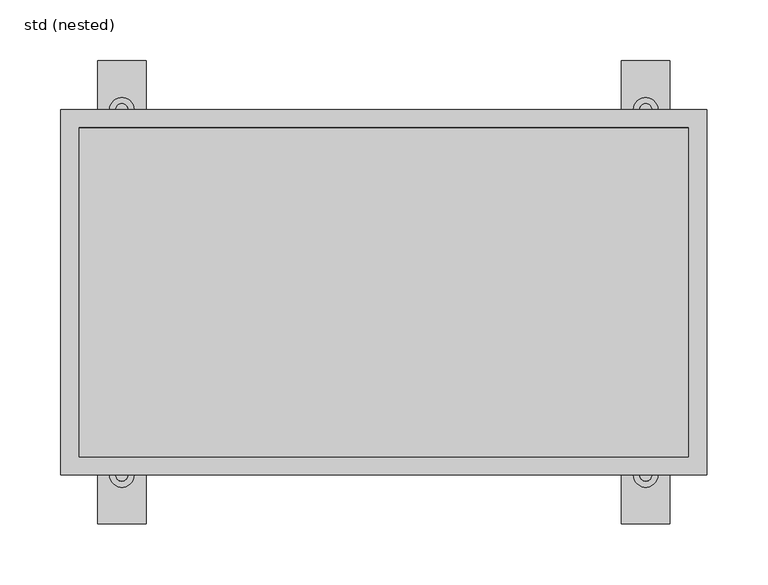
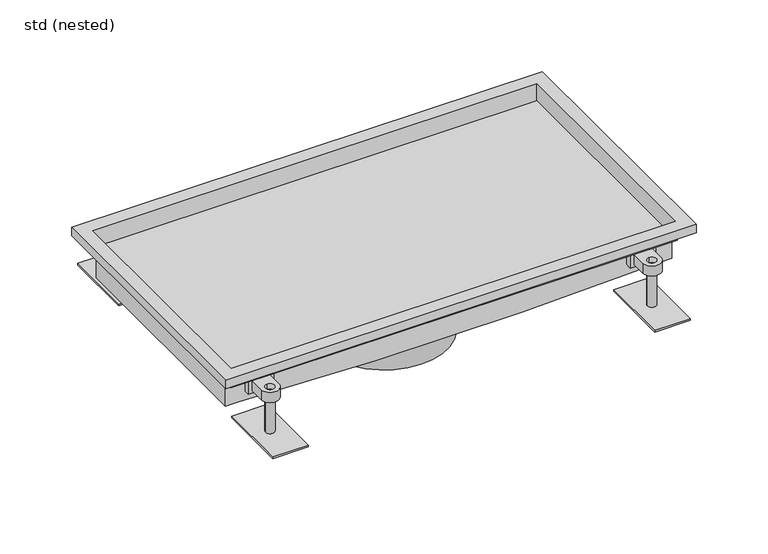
"""IFC4 building model written with IfcOpenShell, lengths in millimetres: sanitary terminal geometry, ZZZ_do not use_PF_ST_UN_custom hygienic box channel_ACO : std (nested)."""

from ifc_helpers import new_model, si_unit, point, frame, frame_2d, origin, place, context, project, spatial, polyline, circle_curve, trimmed, segment, composite_curve, outline, extrude, faceted_brep, source, transform, mapped, element, save
from ifc_brep_helpers import plane_surface, cylinder_surface, advanced_brep


def std_nested_70838659(model_context):
    return source(origin(), model_context, "Body", "SolidModel", [
        extrude(outline(composite_curve([segment(polyline([(225.0, 132.5), (205.0, 132.5), (205.0, 150.0)]), True, "CONTINUOUS"), segment(trimmed(circle_curve(frame_2d((215.0, 150.0)), 10.0), [point((205.0, 150.0))], [point((225.0, 150.0))], False, "CARTESIAN"), True, "CONTINUOUS"), segment(polyline([(225.0, 150.0), (225.0, 132.5)]), True, "CONTINUOUS")], self_intersect=False), holes=[composite_curve([segment(trimmed(circle_curve(frame_2d((215.0, 150.0)), 5.0), [point((215.0, 145.0))], [point((215.0, 155.0))], True, "CARTESIAN"), True, "CONTINUOUS"), segment(trimmed(circle_curve(frame_2d((215.0, 150.0)), 5.0), [point((215.0, 155.0))], [point((215.0, 145.0))], True, "CARTESIAN"), True, "CONTINUOUS")], self_intersect=False)]), frame((0.0, 0.0, -37.0), z_axis=(0.0, 0.0, 1.0), x_axis=(1.0, 0.0, 0.0)), (0.0, 0.0, 1.0), 12.0),
        advanced_brep(
        [(210.0, 150.0, -31.0), (220.0, 150.0, -31.0), (235.0, 110.0, -79.5), (195.0, 110.0, -79.5), (195.0, 190.0, -79.5), (235.0, 190.0, -79.5), (220.0, 150.0, -77.5), (210.0, 150.0, -77.5), (235.0, 110.0, -77.5), (235.0, 190.0, -77.5), (195.0, 190.0, -77.5), (195.0, 110.0, -77.5)],
        [
            (0, 1, circle_curve(frame((215.0, 150.0, -31.0), z_axis=(0.0, 0.0, 1.0), x_axis=(1.0, 0.0, 0.0)), 5.0)),
            (1, 0, circle_curve(frame((215.0, 150.0, -31.0), z_axis=(0.0, 0.0, 1.0), x_axis=(1.0, 0.0, 0.0)), 5.0)),
            (2, 3),
            (3, 4),
            (4, 5),
            (5, 2),
            (1, 6),
            (6, 7, circle_curve(frame((215.0, 150.0, -77.5), z_axis=(0.0, 0.0, 1.0), x_axis=(1.0, 0.0, 0.0)), 5.0)),
            (7, 0),
            (7, 6, circle_curve(frame((215.0, 150.0, -77.5), z_axis=(0.0, 0.0, 1.0), x_axis=(1.0, 0.0, 0.0)), 5.0)),
            (8, 9),
            (9, 10),
            (10, 11),
            (11, 8),
            (11, 3),
            (2, 8),
            (10, 4),
            (9, 5),
        ],
        [
            plane_surface(frame((220.0, 150.0, -31.0), z_axis=(0.0, 0.0, 1.0), x_axis=(0.0, -1.0, 0.0))),
            plane_surface(frame((220.0, 150.0, -79.5), z_axis=(0.0, 0.0, -1.0), x_axis=(0.0, 1.0, 0.0))),
            cylinder_surface(frame((215.0, 150.0, -79.5), z_axis=(0.0, 0.0, 1.0), x_axis=(1.0, 0.0, 0.0)), 5.0),
            plane_surface(frame((195.0, 110.0, -77.5), z_axis=(0.0, 0.0, 1.0), x_axis=(-1.0, 0.0, 0.0))),
            plane_surface(frame((235.0, 110.0, -77.5), z_axis=(0.0, -1.0, 0.0), x_axis=(0.0, 0.0, -1.0))),
            plane_surface(frame((195.0, 110.0, -77.5), z_axis=(-1.0, 0.0, 0.0), x_axis=(0.0, 0.0, -1.0))),
            plane_surface(frame((195.0, 190.0, -77.5), z_axis=(0.0, 1.0, 0.0), x_axis=(0.0, 0.0, -1.0))),
            plane_surface(frame((235.0, 190.0, -77.5), z_axis=(1.0, 0.0, 0.0), x_axis=(0.0, 0.0, -1.0))),
        ],
        [
            (0, [[1, 2]]),
            (1, [[3, 4, 5, 6]]),
            (2, [[7, 8, 9, -2]]),
            (2, [[-9, 10, -7, -1]]),
            (3, [[11, 12, 13, 14], [-10, -8]]),
            (4, [[15, -3, 16, -14]]),
            (5, [[17, -4, -15, -13]]),
            (6, [[18, -5, -17, -12]]),
            (7, [[-16, -6, -18, -11]]),
        ],
    ),
        extrude(outline(polyline([(229.35, 124.5), (200.65, 124.5), (200.65, 132.5), (229.35, 132.5), (229.35, 124.5)])), frame((0.0, 0.0, -40.0), z_axis=(0.0, 0.0, 1.0), x_axis=(1.0, 0.0, 0.0)), (0.0, 0.0, 1.0), 18.0),
        extrude(outline(composite_curve([segment(polyline([(225.0, -132.5), (225.0, -150.0)]), True, "CONTINUOUS"), segment(trimmed(circle_curve(frame_2d((215.0, -150.0)), 10.0), [point((225.0, -150.0))], [point((205.0, -150.0))], False, "CARTESIAN"), True, "CONTINUOUS"), segment(polyline([(205.0, -150.0), (205.0, -132.5), (225.0, -132.5)]), True, "CONTINUOUS")], self_intersect=False), holes=[composite_curve([segment(trimmed(circle_curve(frame_2d((215.0, -150.0)), 5.0), [point((215.0, -145.0))], [point((215.0, -155.0))], True, "CARTESIAN"), True, "CONTINUOUS"), segment(trimmed(circle_curve(frame_2d((215.0, -150.0)), 5.0), [point((215.0, -155.0))], [point((215.0, -145.0))], True, "CARTESIAN"), True, "CONTINUOUS")], self_intersect=False)]), frame((0.0, 0.0, -37.0), z_axis=(0.0, 0.0, 1.0), x_axis=(1.0, 0.0, 0.0)), (0.0, 0.0, 1.0), 12.0),
        advanced_brep(
        [(210.0, -150.0, -31.0), (220.0, -150.0, -31.0), (235.0, -110.0, -79.5), (235.0, -190.0, -79.5), (195.0, -190.0, -79.5), (195.0, -110.0, -79.5), (210.0, -150.0, -77.5), (220.0, -150.0, -77.5), (235.0, -110.0, -77.5), (195.0, -110.0, -77.5), (195.0, -190.0, -77.5), (235.0, -190.0, -77.5)],
        [
            (0, 1, circle_curve(frame((215.0, -150.0, -31.0), z_axis=(0.0, 0.0, 1.0), x_axis=(1.0, 0.0, 0.0)), 5.0)),
            (1, 0, circle_curve(frame((215.0, -150.0, -31.0), z_axis=(0.0, 0.0, 1.0), x_axis=(1.0, 0.0, 0.0)), 5.0)),
            (2, 3),
            (3, 4),
            (4, 5),
            (5, 2),
            (0, 6),
            (6, 7, circle_curve(frame((215.0, -150.0, -77.5), z_axis=(0.0, 0.0, 1.0), x_axis=(1.0, 0.0, 0.0)), 5.0)),
            (7, 1),
            (7, 6, circle_curve(frame((215.0, -150.0, -77.5), z_axis=(0.0, 0.0, 1.0), x_axis=(1.0, 0.0, 0.0)), 5.0)),
            (8, 9),
            (9, 10),
            (10, 11),
            (11, 8),
            (8, 2),
            (5, 9),
            (4, 10),
            (3, 11),
        ],
        [
            plane_surface(frame((220.0, -150.0, -31.0), z_axis=(0.0, 0.0, 1.0), x_axis=(0.0, 1.0, 0.0))),
            plane_surface(frame((220.0, -150.0, -79.5), z_axis=(0.0, 0.0, -1.0), x_axis=(0.0, -1.0, 0.0))),
            cylinder_surface(frame((215.0, -150.0, -79.5), z_axis=(0.0, 0.0, 1.0), x_axis=(1.0, 0.0, 0.0)), 5.0),
            plane_surface(frame((195.0, -110.0, -77.5), z_axis=(0.0, 0.0, 1.0), x_axis=(-1.0, 0.0, 0.0))),
            plane_surface(frame((235.0, -110.0, -77.5), z_axis=(0.0, 1.0, 0.0), x_axis=(0.0, 0.0, -1.0))),
            plane_surface(frame((195.0, -110.0, -77.5), z_axis=(-1.0, 0.0, 0.0), x_axis=(0.0, 0.0, -1.0))),
            plane_surface(frame((195.0, -190.0, -77.5), z_axis=(0.0, -1.0, 0.0), x_axis=(0.0, 0.0, -1.0))),
            plane_surface(frame((235.0, -190.0, -77.5), z_axis=(1.0, 0.0, 0.0), x_axis=(0.0, 0.0, -1.0))),
        ],
        [
            (0, [[1, 2]]),
            (1, [[3, 4, 5, 6]]),
            (2, [[-1, 7, 8, 9]]),
            (2, [[-2, -9, 10, -7]]),
            (3, [[11, 12, 13, 14], [-8, -10]]),
            (4, [[-11, 15, -6, 16]]),
            (5, [[-12, -16, -5, 17]]),
            (6, [[-13, -17, -4, 18]]),
            (7, [[-14, -18, -3, -15]]),
        ],
    ),
        extrude(outline(polyline([(229.35, -124.5), (229.35, -132.5), (200.65, -132.5), (200.65, -124.5), (229.35, -124.5)])), frame((0.0, 0.0, -40.0), z_axis=(0.0, 0.0, 1.0), x_axis=(1.0, 0.0, 0.0)), (0.0, 0.0, 1.0), 18.0),
        extrude(outline(composite_curve([segment(polyline([(-205.0, 132.5), (-225.0, 132.5), (-225.0, 150.0)]), True, "CONTINUOUS"), segment(trimmed(circle_curve(frame_2d((-215.0, 150.0)), 10.0), [point((-225.0, 150.0))], [point((-205.0, 150.0))], False, "CARTESIAN"), True, "CONTINUOUS"), segment(polyline([(-205.0, 150.0), (-205.0, 132.5)]), True, "CONTINUOUS")], self_intersect=False), holes=[composite_curve([segment(trimmed(circle_curve(frame_2d((-215.0, 150.0)), 5.0), [point((-215.0, 145.0))], [point((-215.0, 155.0))], True, "CARTESIAN"), True, "CONTINUOUS"), segment(trimmed(circle_curve(frame_2d((-215.0, 150.0)), 5.0), [point((-215.0, 155.0))], [point((-215.0, 145.0))], True, "CARTESIAN"), True, "CONTINUOUS")], self_intersect=False)]), frame((0.0, 0.0, -37.0), z_axis=(0.0, 0.0, 1.0), x_axis=(1.0, 0.0, 0.0)), (0.0, 0.0, 1.0), 12.0),
        advanced_brep(
        [(-220.0, 150.0, -31.0), (-210.0, 150.0, -31.0), (-195.0, 110.0, -79.5), (-235.0, 110.0, -79.5), (-235.0, 190.0, -79.5), (-195.0, 190.0, -79.5), (-210.0, 150.0, -77.5), (-220.0, 150.0, -77.5), (-195.0, 110.0, -77.5), (-195.0, 190.0, -77.5), (-235.0, 190.0, -77.5), (-235.0, 110.0, -77.5)],
        [
            (0, 1, circle_curve(frame((-215.0, 150.0, -31.0), z_axis=(0.0, 0.0, 1.0), x_axis=(1.0, 0.0, 0.0)), 5.0)),
            (1, 0, circle_curve(frame((-215.0, 150.0, -31.0), z_axis=(0.0, 0.0, 1.0), x_axis=(1.0, 0.0, 0.0)), 5.0)),
            (2, 3),
            (3, 4),
            (4, 5),
            (5, 2),
            (1, 6),
            (6, 7, circle_curve(frame((-215.0, 150.0, -77.5), z_axis=(0.0, 0.0, 1.0), x_axis=(1.0, 0.0, 0.0)), 5.0)),
            (7, 0),
            (7, 6, circle_curve(frame((-215.0, 150.0, -77.5), z_axis=(0.0, 0.0, 1.0), x_axis=(1.0, 0.0, 0.0)), 5.0)),
            (8, 9),
            (9, 10),
            (10, 11),
            (11, 8),
            (11, 3),
            (2, 8),
            (10, 4),
            (9, 5),
        ],
        [
            plane_surface(frame((-210.0, 150.0, -31.0), z_axis=(0.0, 0.0, 1.0), x_axis=(0.0, -1.0, 0.0))),
            plane_surface(frame((-210.0, 150.0, -79.5), z_axis=(0.0, 0.0, -1.0), x_axis=(0.0, 1.0, 0.0))),
            cylinder_surface(frame((-215.0, 150.0, -79.5), z_axis=(0.0, 0.0, 1.0), x_axis=(1.0, 0.0, 0.0)), 5.0),
            plane_surface(frame((-235.0, 110.0, -77.5), z_axis=(0.0, 0.0, 1.0), x_axis=(-1.0, 0.0, 0.0))),
            plane_surface(frame((-195.0, 110.0, -77.5), z_axis=(0.0, -1.0, 0.0), x_axis=(0.0, 0.0, -1.0))),
            plane_surface(frame((-235.0, 110.0, -77.5), z_axis=(-1.0, 0.0, 0.0), x_axis=(0.0, 0.0, -1.0))),
            plane_surface(frame((-235.0, 190.0, -77.5), z_axis=(0.0, 1.0, 0.0), x_axis=(0.0, 0.0, -1.0))),
            plane_surface(frame((-195.0, 190.0, -77.5), z_axis=(1.0, 0.0, 0.0), x_axis=(0.0, 0.0, -1.0))),
        ],
        [
            (0, [[1, 2]]),
            (1, [[3, 4, 5, 6]]),
            (2, [[7, 8, 9, -2]]),
            (2, [[-9, 10, -7, -1]]),
            (3, [[11, 12, 13, 14], [-10, -8]]),
            (4, [[15, -3, 16, -14]]),
            (5, [[17, -4, -15, -13]]),
            (6, [[18, -5, -17, -12]]),
            (7, [[-16, -6, -18, -11]]),
        ],
    ),
        extrude(outline(polyline([(-200.65, 124.5), (-229.35, 124.5), (-229.35, 132.5), (-200.65, 132.5), (-200.65, 124.5)])), frame((0.0, 0.0, -40.0), z_axis=(0.0, 0.0, 1.0), x_axis=(1.0, 0.0, 0.0)), (0.0, 0.0, 1.0), 18.0),
        extrude(outline(composite_curve([segment(polyline([(-205.0, -132.5), (-205.0, -150.0)]), True, "CONTINUOUS"), segment(trimmed(circle_curve(frame_2d((-215.0, -150.0)), 10.0), [point((-205.0, -150.0))], [point((-225.0, -150.0))], False, "CARTESIAN"), True, "CONTINUOUS"), segment(polyline([(-225.0, -150.0), (-225.0, -132.5), (-205.0, -132.5)]), True, "CONTINUOUS")], self_intersect=False), holes=[composite_curve([segment(trimmed(circle_curve(frame_2d((-215.0, -150.0)), 5.0), [point((-215.0, -145.0))], [point((-215.0, -155.0))], True, "CARTESIAN"), True, "CONTINUOUS"), segment(trimmed(circle_curve(frame_2d((-215.0, -150.0)), 5.0), [point((-215.0, -155.0))], [point((-215.0, -145.0))], True, "CARTESIAN"), True, "CONTINUOUS")], self_intersect=False)]), frame((0.0, 0.0, -37.0), z_axis=(0.0, 0.0, 1.0), x_axis=(1.0, 0.0, 0.0)), (0.0, 0.0, 1.0), 12.0),
        advanced_brep(
        [(-220.0, -150.0, -31.0), (-210.0, -150.0, -31.0), (-195.0, -110.0, -79.5), (-195.0, -190.0, -79.5), (-235.0, -190.0, -79.5), (-235.0, -110.0, -79.5), (-220.0, -150.0, -77.5), (-210.0, -150.0, -77.5), (-195.0, -110.0, -77.5), (-235.0, -110.0, -77.5), (-235.0, -190.0, -77.5), (-195.0, -190.0, -77.5)],
        [
            (0, 1, circle_curve(frame((-215.0, -150.0, -31.0), z_axis=(0.0, 0.0, 1.0), x_axis=(1.0, 0.0, 0.0)), 5.0)),
            (1, 0, circle_curve(frame((-215.0, -150.0, -31.0), z_axis=(0.0, 0.0, 1.0), x_axis=(1.0, 0.0, 0.0)), 5.0)),
            (2, 3),
            (3, 4),
            (4, 5),
            (5, 2),
            (0, 6),
            (6, 7, circle_curve(frame((-215.0, -150.0, -77.5), z_axis=(0.0, 0.0, 1.0), x_axis=(1.0, 0.0, 0.0)), 5.0)),
            (7, 1),
            (7, 6, circle_curve(frame((-215.0, -150.0, -77.5), z_axis=(0.0, 0.0, 1.0), x_axis=(1.0, 0.0, 0.0)), 5.0)),
            (8, 9),
            (9, 10),
            (10, 11),
            (11, 8),
            (8, 2),
            (5, 9),
            (4, 10),
            (3, 11),
        ],
        [
            plane_surface(frame((-210.0, -150.0, -31.0), z_axis=(0.0, 0.0, 1.0), x_axis=(0.0, 1.0, 0.0))),
            plane_surface(frame((-210.0, -150.0, -79.5), z_axis=(0.0, 0.0, -1.0), x_axis=(0.0, -1.0, 0.0))),
            cylinder_surface(frame((-215.0, -150.0, -79.5), z_axis=(0.0, 0.0, 1.0), x_axis=(1.0, 0.0, 0.0)), 5.0),
            plane_surface(frame((-235.0, -110.0, -77.5), z_axis=(0.0, 0.0, 1.0), x_axis=(-1.0, 0.0, 0.0))),
            plane_surface(frame((-195.0, -110.0, -77.5), z_axis=(0.0, 1.0, 0.0), x_axis=(0.0, 0.0, -1.0))),
            plane_surface(frame((-235.0, -110.0, -77.5), z_axis=(-1.0, 0.0, 0.0), x_axis=(0.0, 0.0, -1.0))),
            plane_surface(frame((-235.0, -190.0, -77.5), z_axis=(0.0, -1.0, 0.0), x_axis=(0.0, 0.0, -1.0))),
            plane_surface(frame((-195.0, -190.0, -77.5), z_axis=(1.0, 0.0, 0.0), x_axis=(0.0, 0.0, -1.0))),
        ],
        [
            (0, [[1, 2]]),
            (1, [[3, 4, 5, 6]]),
            (2, [[-1, 7, 8, 9]]),
            (2, [[-2, -9, 10, -7]]),
            (3, [[11, 12, 13, 14], [-8, -10]]),
            (4, [[-11, 15, -6, 16]]),
            (5, [[-12, -16, -5, 17]]),
            (6, [[-13, -17, -4, 18]]),
            (7, [[-14, -18, -3, -15]]),
        ],
    ),
        extrude(outline(polyline([(-200.65, -124.5), (-200.65, -132.5), (-229.35, -132.5), (-229.35, -124.5), (-200.65, -124.5)])), frame((0.0, 0.0, -40.0), z_axis=(0.0, 0.0, 1.0), x_axis=(1.0, 0.0, 0.0)), (0.0, 0.0, 1.0), 18.0),
        faceted_brep([(-250.0, 135.0, -22.0), (-250.0, 135.0, -20.5), (250.0, 135.0, -20.5), (250.0, 135.0, -22.0), (-250.0, -135.0, -20.5), (250.0, -135.0, -20.5), (-250.0, -135.0, -22.0), (250.0, -135.0, -22.0), (-250.0, -126.0, -22.0), (250.0, -126.0, -22.0), (250.0, 126.0, -22.0), (-250.0, 126.0, -22.0), (82.5, -126.0, -55.0), (236.5, -126.0, -50.0), (251.5, -126.0, -50.0), (251.5, -126.0, -22.0), (-251.5, -126.0, -22.0), (-251.5, -126.0, -50.0), (-236.5, -126.0, -50.0), (-82.5, -126.0, -55.0), (82.5, 126.0, -55.0), (236.5, 126.0, -50.0), (-82.5, 126.0, -55.0), (-236.5, 126.0, -50.0), (-251.5, 126.0, -50.0), (-251.5, 126.0, -22.0), (251.5, 126.0, -22.0), (251.5, 126.0, -50.0)], [[[0, 1, 2, 3]], [[1, 4, 5, 2]], [[4, 6, 7, 5]], [[6, 8, 9, 7]], [[10, 11, 0, 3]], [[12, 13, 14, 15, 9, 8, 16, 17, 18, 19]], [[13, 12, 20, 21]], [[21, 20, 22, 23, 24, 25, 11, 10, 26, 27]], [[22, 20, 12, 19]], [[19, 18, 23, 22]], [[24, 17, 16, 25]], [[25, 16, 8, 11]], [[17, 24, 23, 18]], [[4, 1, 0, 11, 8, 6]], [[5, 7, 9, 10, 3, 2]], [[26, 15, 14, 27]], [[15, 26, 10, 9]], [[27, 14, 13, 21]]]),
        advanced_brep(
        [(-71.3, 0.0, -121.5), (71.3, 0.0, -121.5), (0.0, 0.0, -121.5), (-71.3, 0.0, -60.0), (71.3, 0.0, -60.0), (-82.5, 0.0, -60.0), (82.5, 0.0, -60.0), (-82.5, 0.0, -55.0), (82.5, 0.0, -55.0), (0.0, 0.0, -55.0)],
        [
            (0, 1, circle_curve(frame((0.0, 0.0, -121.5), z_axis=(0.0, 0.0, -1.0), x_axis=(1.0, 0.0, 0.0)), 71.3)),
            (1, 2),
            (2, 0),
            (1, 0, circle_curve(frame((0.0, 0.0, -121.5), z_axis=(0.0, 0.0, -1.0), x_axis=(1.0, 0.0, 0.0)), 71.3)),
            (3, 4, circle_curve(frame((0.0, 0.0, -60.0), z_axis=(0.0, 0.0, -1.0), x_axis=(1.0, 0.0, 0.0)), 71.3)),
            (4, 1),
            (0, 3),
            (4, 3, circle_curve(frame((0.0, 0.0, -60.0), z_axis=(0.0, 0.0, -1.0), x_axis=(1.0, 0.0, 0.0)), 71.3)),
            (5, 6, circle_curve(frame((0.0, 0.0, -60.0), z_axis=(0.0, 0.0, -1.0), x_axis=(1.0, 0.0, 0.0)), 82.5)),
            (6, 4),
            (3, 5),
            (6, 5, circle_curve(frame((0.0, 0.0, -60.0), z_axis=(0.0, 0.0, -1.0), x_axis=(1.0, 0.0, 0.0)), 82.5)),
            (7, 8, circle_curve(frame((0.0, 0.0, -55.0), z_axis=(0.0, 0.0, -1.0), x_axis=(1.0, 0.0, 0.0)), 82.5)),
            (8, 6),
            (5, 7),
            (8, 7, circle_curve(frame((0.0, 0.0, -55.0), z_axis=(0.0, 0.0, -1.0), x_axis=(1.0, 0.0, 0.0)), 82.5)),
            (9, 8),
            (7, 9),
        ],
        [
            plane_surface(frame((0.0, 0.0, -121.5), z_axis=(0.0, 0.0, -1.0), x_axis=(1.0, 0.0, 0.0))),
            cylinder_surface(frame((0.0, 0.0, -130.0), z_axis=(0.0, 0.0, 1.0), x_axis=(1.0, 0.0, 0.0)), 71.3),
            plane_surface(frame((0.0, 0.0, -60.0), z_axis=(0.0, 0.0, -1.0), x_axis=(1.0, 0.0, 0.0))),
            cylinder_surface(frame((0.0, 0.0, -130.0), z_axis=(0.0, 0.0, 1.0), x_axis=(1.0, 0.0, 0.0)), 82.5),
            plane_surface(frame((0.0, 0.0, -55.0), z_axis=(0.0, 0.0, 1.0), x_axis=(1.0, 0.0, 0.0))),
        ],
        [
            (0, [[1, 2, 3]]),
            (0, [[4, -3, -2]]),
            (1, [[5, 6, -1, 7]]),
            (1, [[8, -7, -4, -6]]),
            (2, [[9, 10, -5, 11]]),
            (2, [[12, -11, -8, -10]]),
            (3, [[13, 14, -9, 15]]),
            (3, [[16, -15, -12, -14]]),
            (4, [[17, -13, 18]]),
            (4, [[-18, -16, -17]]),
        ],
    ),
        faceted_brep([(265.0, 150.0, -10.0), (265.0, 150.0, 0.0), (265.0, -150.0, 0.0), (265.0, -150.0, -10.0), (251.5, 136.5, -22.0), (251.5, 136.5, -1.5), (251.5, -136.5, -1.5), (251.5, -136.5, -22.0), (250.0, 135.0, 0.0), (250.0, 135.0, -22.0), (250.0, -135.0, -22.0), (250.0, -135.0, 0.0), (-265.0, -150.0, 0.0), (-265.0, -150.0, -10.0), (-251.5, -136.5, -1.5), (-251.5, -136.5, -22.0), (-250.0, -135.0, -22.0), (-250.0, -135.0, 0.0), (-265.0, 150.0, 0.0), (-265.0, 150.0, -10.0), (-251.5, 136.5, -1.5), (-251.5, 136.5, -22.0), (-250.0, 135.0, -22.0), (-250.0, 135.0, 0.0), (263.5, 148.5, -10.0), (-263.5, 148.5, -10.0), (-263.5, -148.5, -10.0), (263.5, -148.5, -10.0), (263.5, 148.5, -1.5), (263.5, -148.5, -1.5), (-263.5, -148.5, -1.5), (-263.5, 148.5, -1.5)], [[[0, 1, 2, 3]], [[4, 5, 6, 7]], [[8, 9, 10, 11]], [[3, 2, 12, 13]], [[7, 6, 14, 15]], [[11, 10, 16, 17]], [[13, 12, 18, 19]], [[15, 14, 20, 21]], [[17, 16, 22, 23]], [[19, 18, 1, 0]], [[3, 13, 19, 0], [24, 25, 26, 27]], [[21, 20, 5, 4]], [[7, 15, 21, 4], [9, 22, 16, 10]], [[23, 22, 9, 8]], [[1, 18, 12, 2], [11, 17, 23, 8]], [[28, 24, 27, 29]], [[29, 27, 26, 30]], [[30, 26, 25, 31]], [[31, 25, 24, 28]], [[29, 30, 31, 28], [5, 20, 14, 6]]]),
    ])


if __name__ == "__main__":
    model = new_model("IFC4")
    model_context = context("Model", 3, world=origin())
    ifc_project = project(units=[si_unit("LENGTHUNIT", "METRE", prefix="MILLI")], contexts=[model_context])
    site = spatial("IfcSite", under=ifc_project)
    building = spatial("IfcBuilding", under=site)
    placement = place(None, origin())
    std_nested_shape = std_nested_70838659(model_context)
    element("IfcSanitaryTerminal", 1, ObjectType="ZZZ_do not use_PF_ST_UN_custom hygienic box channel_ACO : std (nested)", at=placement, inside=building, context=model_context, shape_type="MappedRepresentation", body=[
        mapped(std_nested_shape, transform((0.0, 0.0, 0.0), x_axis=(1.0, 0.0, 0.0), y_axis=(0.0, 1.0, 0.0), z_axis=(0.0, 0.0, 1.0))),
    ])
    save(model, "model.ifc")
